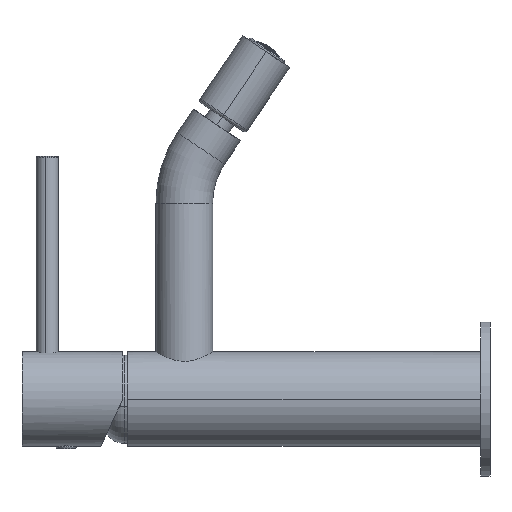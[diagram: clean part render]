
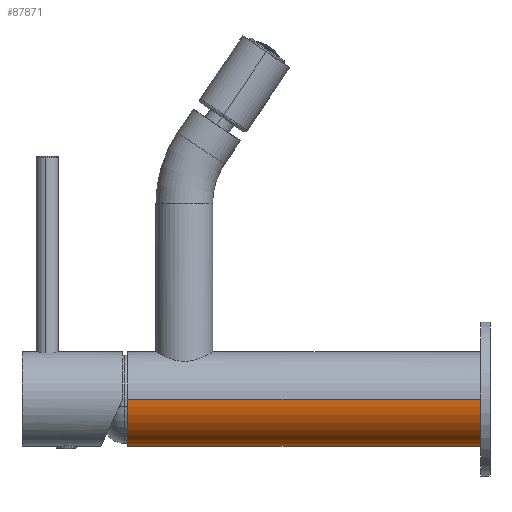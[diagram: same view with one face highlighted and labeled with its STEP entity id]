
A CAD part, left-side view. The second image highlights one B-rep face of the part: STEP entity #87871.
In plain terms, the highlighted cylindrical face has radius 15 mm (diameter 30 mm), a partial arc.
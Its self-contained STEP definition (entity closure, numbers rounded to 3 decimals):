
#17853=CARTESIAN_POINT('',(0.,0.,0.));
#17854=DIRECTION('',(0.,1.,0.));
#17855=DIRECTION('',(1.,0.,0.));
#17856=AXIS2_PLACEMENT_3D('',#17853,#17854,#17855);
#17858=DIRECTION('',(0.,-1.,0.));
#17859=VECTOR('',#17858,112.);
#17860=CARTESIAN_POINT('',(15.,112.,0.));
#17861=LINE('',#17860,#17859);
#17862=CARTESIAN_POINT('',(0.,112.,0.));
#17863=DIRECTION('',(0.,-1.,0.));
#17864=DIRECTION('',(-1.,0.,0.));
#17865=AXIS2_PLACEMENT_3D('',#17862,#17863,#17864);
#17867=DIRECTION('',(0.,-1.,0.));
#17868=VECTOR('',#17867,112.);
#17869=CARTESIAN_POINT('',(-15.,112.,0.));
#17870=LINE('',#17869,#17868);
#61347=CARTESIAN_POINT('',(-15.,112.,0.));
#61348=CARTESIAN_POINT('',(15.,112.,0.));
#61349=VERTEX_POINT('',#61347);
#61350=VERTEX_POINT('',#61348);
#61555=CARTESIAN_POINT('',(-15.,0.,0.));
#61556=CARTESIAN_POINT('',(15.,0.,0.));
#61557=VERTEX_POINT('',#61555);
#61558=VERTEX_POINT('',#61556);
#87857=CARTESIAN_POINT('',(0.,-5.6,0.));
#87858=DIRECTION('',(0.,1.,0.));
#87859=DIRECTION('',(1.,0.,0.));
#87860=AXIS2_PLACEMENT_3D('',#87857,#87858,#87859);
#87861=CYLINDRICAL_SURFACE('',#87860,15.);
#87863=ORIENTED_EDGE('',*,*,#87862,.F.);
#87865=ORIENTED_EDGE('',*,*,#87864,.F.);
#87866=ORIENTED_EDGE('',*,*,#87845,.F.);
#87868=ORIENTED_EDGE('',*,*,#87867,.T.);
#87869=EDGE_LOOP('',(#87863,#87865,#87866,#87868));
#87870=FACE_OUTER_BOUND('',#87869,.F.);
#87871=ADVANCED_FACE('',(#87870),#87861,.T.);
#17857=CIRCLE('',#17856,15.);
#17866=CIRCLE('',#17865,15.);
#87845=EDGE_CURVE('',#61349,#61350,#17866,.T.);
#87862=EDGE_CURVE('',#61558,#61557,#17857,.T.);
#87864=EDGE_CURVE('',#61350,#61558,#17861,.T.);
#87867=EDGE_CURVE('',#61349,#61557,#17870,.T.);
